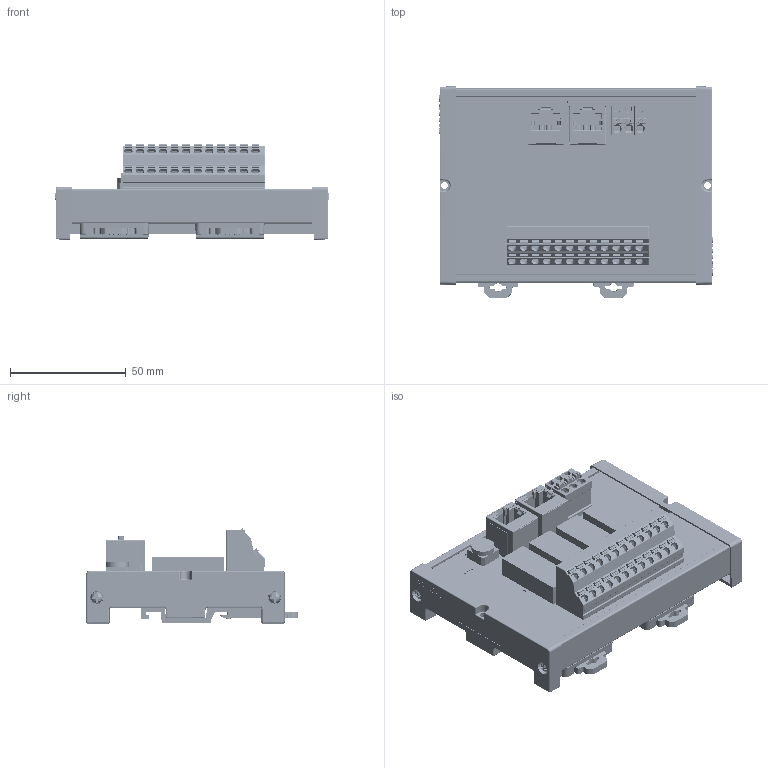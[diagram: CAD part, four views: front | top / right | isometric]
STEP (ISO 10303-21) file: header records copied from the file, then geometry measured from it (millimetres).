
FILE_DESCRIPTION((''),'2;1');
FILE_NAME('AM80-C_1_ASM','2025-09-22T18:46:01',('Administrator'),(''),'CREO PARAMETRIC BY PTC INC, 2022073','CREO PARAMETRIC BY PTC INC, 2022073','');
FILE_SCHEMA(('CONFIG_CONTROL_DESIGN'));
Products named in the file (302): AM80-C_1_5; AM80-C_1_7; AM80-C_1_10; AM80-C_1_8; AM80-C_1_9; AM80-C_1_1; AM80-C_1_2; AM80-C_1_4; AM80-C_1_6; DGKYD52241188AC2A3DY1027_SUJIAO; DGKYD52241188AC2A3DY1027_LED_1_; DGKYD52241188AC2A3DY1027_KEZI_1; DGKYD52241188AC2A3DY1027_CABA_1; DGKYD52241188AC2A3DY1027_CABA_2; DGKYD52241188AC2A3DY1027_CABA_3; DGKYD52241188AC2A3DY1027_CABA_4; DGKYD52241188AC2A3DY1027_CABA_5; DGKYD52241188AC2A3DY1027_CABA_6; DGKYD52241188AC2A3DY1027_CABA_7; DGKYD52241188AC2A3DY1027_CABA_8; DGKYD52241188AC2A3DY1027_CABA_9; DGKYD52241188AC2A3DY1027_CABAN__ASM; DGKYD52241188AC2A3DY1027_ASM_1__ASM; DGKYD52241188AC1A3DY1027_ASM_1_ASM; OPEN_CASCADE_STEP_TRANSLATO-554; BOARD_1_ASM; R_0402_1_2_1; R_0402_1_2_2; R_0402_1_2_3; R_0402_1_2_4; R_0402_1_2_ASM; R42_1_ASM; CYLINDER-6983; 8409934288_ASM; EXTRUDED-7113; 8409932928_ASM; K4_ASM; OPEN_CASCADE_STEP_TRANSLAT-7348; OPEN_CASCADE_STEP_TRANSLAT-7403; BODY-7393_ASM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
Assembly tree (510 placements, depth 7):
  AM80-C_1_ASM
    AM80-C_1_5
    AM80-C_1_7
    AM80-C_1_10
    AM80-C_1_8  x2
    AM80-C_1_9  x2
    AM80-C_1_1
    AM80-C_1_2
    AM80-C_1_4
    AM80-C_1_6
    DGKYD52241188AC1A3DY1027_ASM_1_ASM  x2
      DGKYD52241188AC2A3DY1027_ASM_1__ASM
        DGKYD52241188AC2A3DY1027_SUJIAO
        DGKYD52241188AC2A3DY1027_LED_1_  x2
        DGKYD52241188AC2A3DY1027_KEZI_1
        DGKYD52241188AC2A3DY1027_CABAN__ASM
          DGKYD52241188AC2A3DY1027_CABA_1
          DGKYD52241188AC2A3DY1027_CABA_2
          DGKYD52241188AC2A3DY1027_CABA_3
          DGKYD52241188AC2A3DY1027_CABA_4
          DGKYD52241188AC2A3DY1027_CABA_5
          DGKYD52241188AC2A3DY1027_CABA_6
          DGKYD52241188AC2A3DY1027_CABA_7
          DGKYD52241188AC2A3DY1027_CABA_8
          DGKYD52241188AC2A3DY1027_CABA_9
    XBF2C_4_D2170_0_1_0001_ASM
      PCB_1_ASM
        BOARD_1_ASM
          OPEN_CASCADE_STEP_TRANSLATO-554
        R42_1_ASM
          R_0402_1_2_ASM
            R_0402_1_2_1
            R_0402_1_2_2
            R_0402_1_2_3
            R_0402_1_2_4
        K4_ASM
          8409934288_ASM  x8
            CYLINDER-6983
          8409932928_ASM
            EXTRUDED-7113
        U9_1_ASM
          6196274224_1_ASM
            OPEN_CASCADE_STEP_TRANSLAT-7348
            BODY-7393_ASM
              OPEN_CASCADE_STEP_TRANSLAT-7403
            LEADER-9673  x4
        U5_1_ASM
          6196275424_1_ASM
            OPEN_CASCADE_STEP_TRANSLA-10331
            BODY-10376_ASM
              OPEN_CASCADE_STEP_TRANSLA-10386
            LEADER-12656  x8
        R44_1_ASM
          R_0402_1_2_ASM
            R_0402_1_2_1
            R_0402_1_2_2
            R_0402_1_2_3
            R_0402_1_2_4
        R32_1_ASM
          R_0402_1_2_ASM
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Bounding box: 118.2 x 91.5 x 41.27 mm (x, y, z)
Volume: 110465.6 mm3; surface area: 111443.9 mm2
Topology: 620 solids, 664 shells, 20837 faces, 54022 edges, 34410 vertices
Faces by surface type: plane 11915, extrusion 3677, cylinder 3459, sphere 784, cone 404, bspline 388, torus 210
Entity records: 354959 total; most frequent: CARTESIAN_POINT 147146, ORIENTED_EDGE 43036, DIRECTION 40240, EDGE_CURVE 21553, VECTOR 14180, VERTEX_POINT 14080, LINE 13308, AXIS2_PLACEMENT_3D 13030
